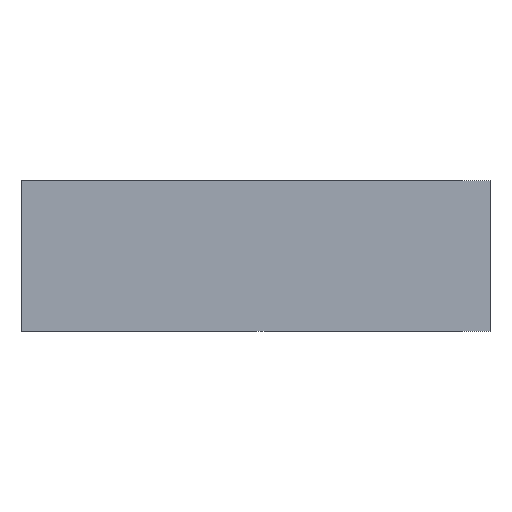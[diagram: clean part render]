
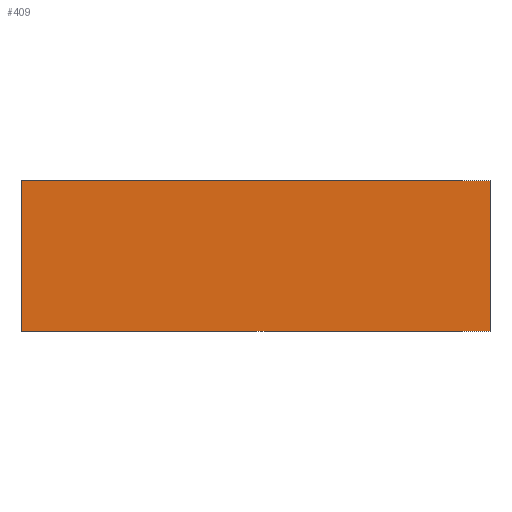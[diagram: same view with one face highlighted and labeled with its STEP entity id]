
A CAD part, front view. The second image highlights one B-rep face of the part: STEP entity #409.
In plain terms, the highlighted planar face has unit normal (0, -1, 0).
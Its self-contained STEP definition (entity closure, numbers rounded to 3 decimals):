
#14 = EDGE_CURVE ( 'NONE', #651, #691, #245, .T. ) ;
#18 = AXIS2_PLACEMENT_3D ( 'NONE', #489, #482, #481 ) ;
#20 = EDGE_CURVE ( 'NONE', #603, #683, #248, .T. ) ;
#39 = EDGE_CURVE ( 'NONE', #603, #651, #211, .T. ) ;
#78 = EDGE_CURVE ( 'NONE', #683, #691, #165, .T. ) ;
#127 = FACE_OUTER_BOUND ( 'NONE', #277, .T. ) ;
#164 = VECTOR ( 'NONE', #592, 1000. ) ;
#165 = LINE ( 'NONE', #593, #164 ) ;
#210 = VECTOR ( 'NONE', #661, 1000. ) ;
#211 = LINE ( 'NONE', #662, #210 ) ;
#235 = VECTOR ( 'NONE', #697, 1000. ) ;
#244 = VECTOR ( 'NONE', #430, 1000. ) ;
#245 = LINE ( 'NONE', #438, #244 ) ;
#248 = LINE ( 'NONE', #705, #235 ) ;
#277 = EDGE_LOOP ( 'NONE', ( #381, #357, #358, #359 ) ) ;
#357 = ORIENTED_EDGE ( 'NONE', *, *, #14, .F. ) ;
#358 = ORIENTED_EDGE ( 'NONE', *, *, #39, .F. ) ;
#359 = ORIENTED_EDGE ( 'NONE', *, *, #20, .T. ) ;
#381 = ORIENTED_EDGE ( 'NONE', *, *, #78, .T. ) ;
#409 = ADVANCED_FACE ( 'NONE', ( #127 ), #493, .F. ) ;
#430 = DIRECTION ( 'NONE',  ( 0., 0., -1. ) ) ;
#438 = CARTESIAN_POINT ( 'NONE',  ( 101., 0., 65. ) ) ;
#444 = CARTESIAN_POINT ( 'NONE',  ( 101., 0., 0. ) ) ;
#447 = CARTESIAN_POINT ( 'NONE',  ( -101., 0., 0. ) ) ;
#458 = CARTESIAN_POINT ( 'NONE',  ( 101., 0., 65. ) ) ;
#472 = CARTESIAN_POINT ( 'NONE',  ( -101., 0., 65. ) ) ;
#481 = DIRECTION ( 'NONE',  ( -1., 0., 0. ) ) ;
#482 = DIRECTION ( 'NONE',  ( 0., 1., 0. ) ) ;
#489 = CARTESIAN_POINT ( 'NONE',  ( -101., 0., 65. ) ) ;
#493 = PLANE ( 'NONE',  #18 ) ;
#592 = DIRECTION ( 'NONE',  ( 1., 0., 0. ) ) ;
#593 = CARTESIAN_POINT ( 'NONE',  ( -101., 0., 0. ) ) ;
#603 = VERTEX_POINT ( 'NONE', #472 ) ;
#651 = VERTEX_POINT ( 'NONE', #458 ) ;
#661 = DIRECTION ( 'NONE',  ( 1., 0., 0. ) ) ;
#662 = CARTESIAN_POINT ( 'NONE',  ( -101., 0., 65. ) ) ;
#683 = VERTEX_POINT ( 'NONE', #447 ) ;
#691 = VERTEX_POINT ( 'NONE', #444 ) ;
#697 = DIRECTION ( 'NONE',  ( 0., 0., -1. ) ) ;
#705 = CARTESIAN_POINT ( 'NONE',  ( -101., 0., 65. ) ) ;
